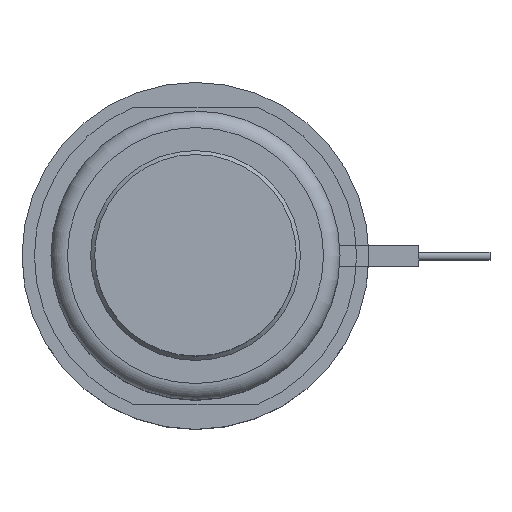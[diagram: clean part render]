
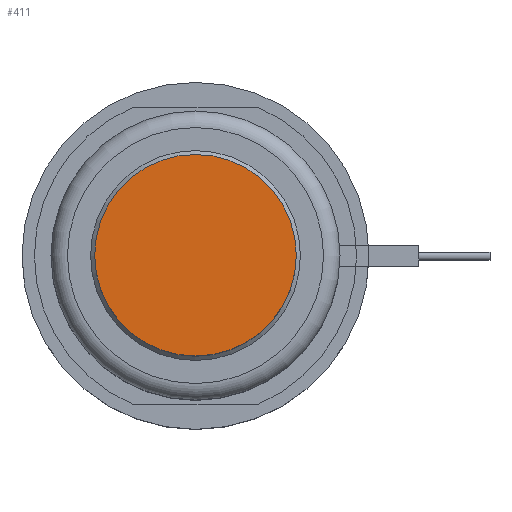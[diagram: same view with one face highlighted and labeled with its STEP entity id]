
A CAD part, top view. The second image highlights one B-rep face of the part: STEP entity #411.
In plain terms, the highlighted planar face has unit normal (0, 0, 1).
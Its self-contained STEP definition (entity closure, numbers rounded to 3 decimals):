
#266=PLANE('',#1395);
#328=FACE_OUTER_BOUND('',#645,.T.);
#411=ADVANCED_FACE('',(#328),#266,.F.);
#645=EDGE_LOOP('',(#877));
#877=ORIENTED_EDGE('',*,*,#1160,.F.);
#1033=VERTEX_POINT('',#2160);
#1160=EDGE_CURVE('',#1033,#1033,#1258,.T.);
#1258=CIRCLE('',#1394,12.2);
#1394=AXIS2_PLACEMENT_3D('',#2159,#1708,#1709);
#1395=AXIS2_PLACEMENT_3D('',#2161,#1710,#1711);
#1708=DIRECTION('',(0.,0.,-1.));
#1709=DIRECTION('',(-1.,0.,0.));
#1710=DIRECTION('',(0.,0.,-1.));
#1711=DIRECTION('',(-1.,0.,0.));
#2159=CARTESIAN_POINT('',(0.,0.,18.));
#2160=CARTESIAN_POINT('',(-12.2,0.,18.));
#2161=CARTESIAN_POINT('',(0.,0.,18.));
